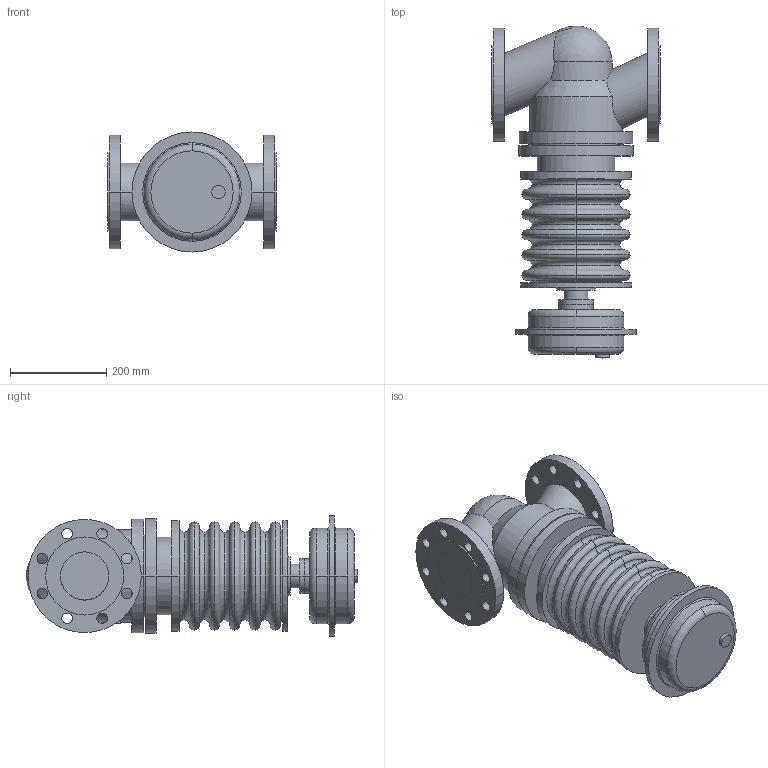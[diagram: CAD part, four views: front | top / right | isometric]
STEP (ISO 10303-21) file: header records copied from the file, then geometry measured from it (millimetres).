
FILE_DESCRIPTION( ( '' ), '1' );
FILE_NAME( 'F:/DE-SHS/TB/OR/04-Sonstiges/daten/files_3d/PREDU/PREDU-PN40-DMA250/c000005381.stp', '2014-06-03T11:25:33', ( '' ), ( '' ), ' ', ' ', ' ' );
FILE_SCHEMA( ( 'CONFIG_CONTROL_DESIGN' ) );
Length unit declared in the file: millimetre
Products named in the file (2): 1; 2
Bounding box: 350 x 688.65 x 249 mm (x, y, z)
Volume: 22193445.4 mm3; surface area: 973011.4 mm2
Topology: 2 solids, 2 shells, 173 faces, 418 edges, 270 vertices
Faces by surface type: cylinder 80, torus 50, plane 40, cone 2, sphere 1
Entity records: 5844 total; most frequent: CARTESIAN_POINT 1398, DIRECTION 1041, ORIENTED_EDGE 832, AXIS2_PLACEMENT_3D 464, EDGE_CURVE 416, CIRCLE 283, VERTEX_POINT 270, EDGE_LOOP 228
